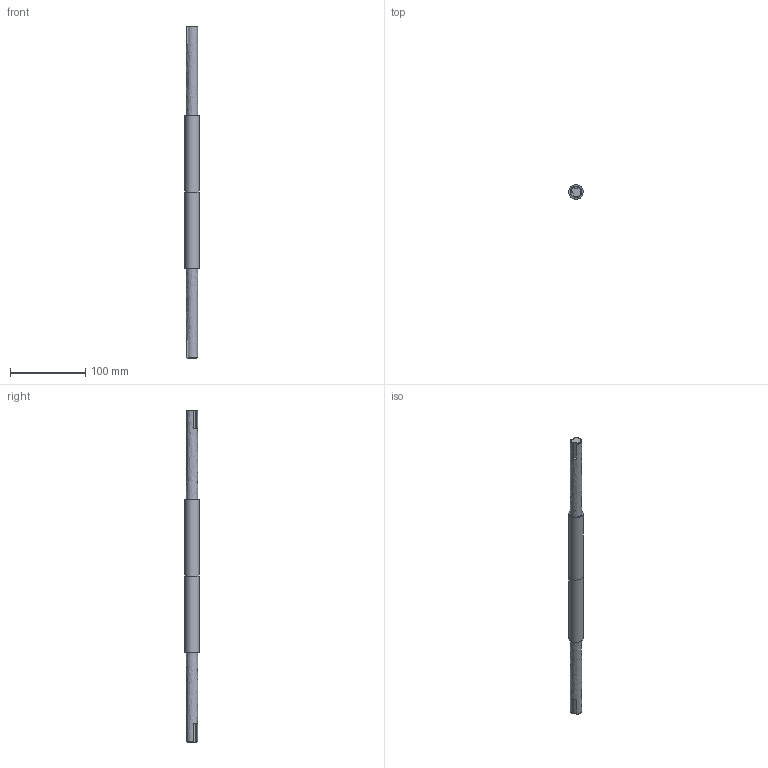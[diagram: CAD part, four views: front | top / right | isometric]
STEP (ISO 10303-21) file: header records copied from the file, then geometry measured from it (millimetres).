
FILE_DESCRIPTION ((), '1');
FILE_NAME ('H:\Energy Science\CAD Projects\Generator Research\Tesla_v1\Steel Shaft\Shaft-StainlessSteel.stp', '2015-10-15T23:03:48', ('Unknown'), ('Unknown'), 'HarmonyWare STEP v1.7.11', 'HarmonyWare Translators', '');
FILE_SCHEMA (('CONFIG_CONTROL_DESIGN'));
Length unit declared in the file: millimetre
Products named in the file (1): product-name
Bounding box: 18.99 x 18.97 x 440 mm (x, y, z)
Volume: 95851.1 mm3; surface area: 25031 mm2
Topology: 1 solids, 1 shells, 30 faces, 77 edges, 49 vertices
Faces by surface type: bspline 30
Entity records: 1207 total; most frequent: CARTESIAN_POINT 666, ORIENTED_EDGE 154, EDGE_CURVE 77, B_SPLINE_CURVE_WITH_KNOTS 52, VERTEX_POINT 49, EDGE_LOOP 30, FACE_OUTER_BOUND 30, ADVANCED_FACE 30
